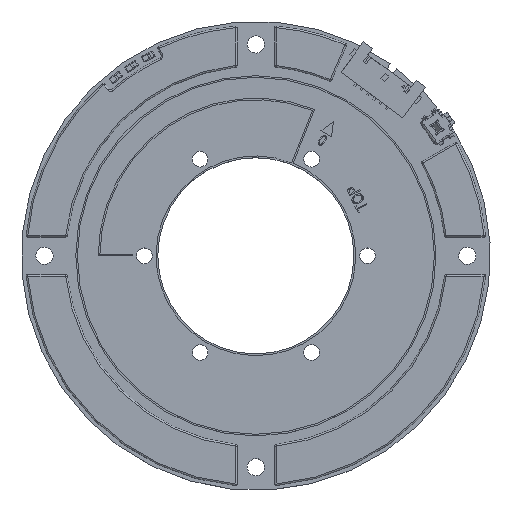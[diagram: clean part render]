
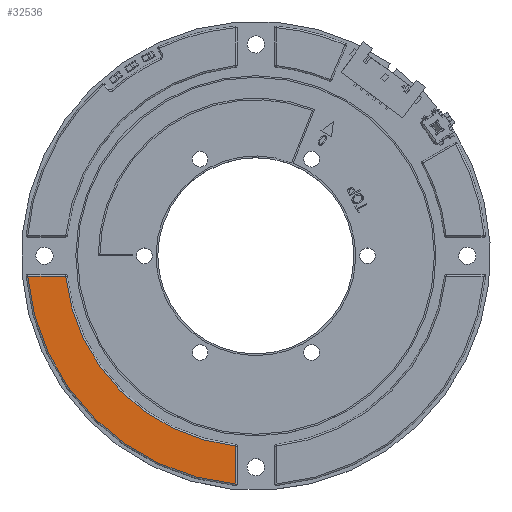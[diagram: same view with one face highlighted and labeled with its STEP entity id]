
A CAD part, top view. The second image highlights one B-rep face of the part: STEP entity #32536.
In plain terms, the highlighted planar face has unit normal (0, 0, 1).
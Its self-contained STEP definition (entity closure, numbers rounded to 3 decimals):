
#605=LINE('',#43503,#3760);
#606=LINE('',#43507,#3761);
#3760=VECTOR('',#36302,1000.);
#3761=VECTOR('',#36305,1000.);
#6961=ORIENTED_EDGE('',*,*,#14768,.T.);
#6962=ORIENTED_EDGE('',*,*,#14769,.T.);
#6963=ORIENTED_EDGE('',*,*,#14770,.T.);
#6964=ORIENTED_EDGE('',*,*,#14771,.T.);
#14768=EDGE_CURVE('',#18671,#18672,#21213,.F.);
#14769=EDGE_CURVE('',#18672,#18673,#605,.T.);
#14770=EDGE_CURVE('',#18673,#18674,#21214,.T.);
#14771=EDGE_CURVE('',#18674,#18671,#606,.T.);
#18671=VERTEX_POINT('',#43501);
#18672=VERTEX_POINT('',#43502);
#18673=VERTEX_POINT('',#43504);
#18674=VERTEX_POINT('',#43506);
#21213=CIRCLE('',#34217,29.258);
#21214=CIRCLE('',#34218,24.432);
#21770=EDGE_LOOP('',(#6961,#6962,#6963,#6964));
#23367=FACE_BOUND('',#21770,.T.);
#24953=PLANE('',#34216);
#32536=ADVANCED_FACE('',(#23367),#24953,.F.);
#34216=AXIS2_PLACEMENT_3D('',#43499,#36298,#36299);
#34217=AXIS2_PLACEMENT_3D('',#43500,#36300,#36301);
#34218=AXIS2_PLACEMENT_3D('',#43505,#36303,#36304);
#36298=DIRECTION('',(0.,0.,-1.));
#36299=DIRECTION('',(-1.,0.,0.));
#36300=DIRECTION('',(0.,0.,-1.));
#36301=DIRECTION('',(-1.,0.,0.));
#36302=DIRECTION('',(0.,1.,0.));
#36303=DIRECTION('',(0.,0.,-1.));
#36304=DIRECTION('',(-1.,0.,0.));
#36305=DIRECTION('',(-1.,0.,0.));
#43499=CARTESIAN_POINT('',(30.437,30.603,1.5));
#43500=CARTESIAN_POINT('',(30.437,30.603,1.5));
#43501=CARTESIAN_POINT('',(1.295,28.003,1.5));
#43502=CARTESIAN_POINT('',(27.837,1.461,1.5));
#43503=CARTESIAN_POINT('',(27.837,30.603,1.5));
#43504=CARTESIAN_POINT('',(27.837,6.31,1.5));
#43505=CARTESIAN_POINT('',(30.437,30.603,1.5));
#43506=CARTESIAN_POINT('',(6.144,28.003,1.5));
#43507=CARTESIAN_POINT('',(30.437,28.003,1.5));
